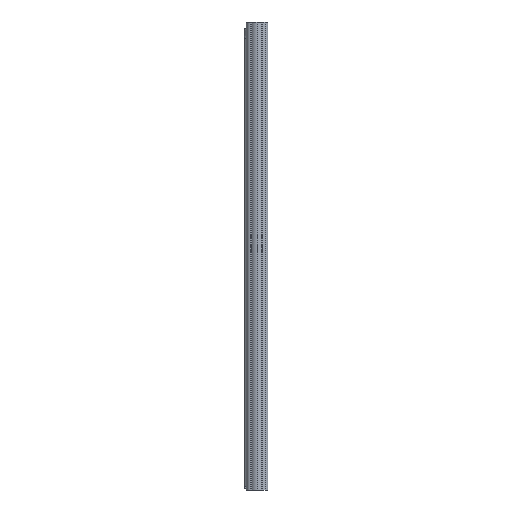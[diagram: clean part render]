
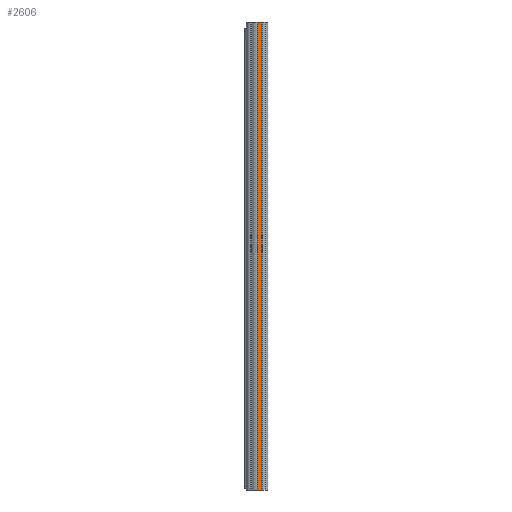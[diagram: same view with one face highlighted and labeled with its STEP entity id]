
A CAD part, left-side view. The second image highlights one B-rep face of the part: STEP entity #2606.
In plain terms, the highlighted cylindrical face has radius 3.78 mm (diameter 7.56 mm), a partial arc.
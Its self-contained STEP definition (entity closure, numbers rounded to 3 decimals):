
#61 = EDGE_LOOP ( 'NONE', ( #4005, #4168, #4310, #4298 ) ) ;
#196 = FACE_OUTER_BOUND ( 'NONE', #61, .T. ) ;
#202 = CYLINDRICAL_SURFACE ( 'NONE', #3713, 3.78 ) ;
#746 = CIRCLE ( 'NONE', #3917, 3.78 ) ;
#844 = LINE ( 'NONE', #4637, #851 ) ;
#850 = CIRCLE ( 'NONE', #3937, 3.78 ) ;
#851 = VECTOR ( 'NONE', #4621, 1000. ) ;
#872 = LINE ( 'NONE', #4752, #876 ) ;
#876 = VECTOR ( 'NONE', #4654, 1000. ) ;
#1098 = VERTEX_POINT ( 'NONE', #2996 ) ;
#1102 = VERTEX_POINT ( 'NONE', #2990 ) ;
#1534 = VERTEX_POINT ( 'NONE', #2892 ) ;
#1818 = CARTESIAN_POINT ( 'NONE',  ( -19.01, 0.53, 243.5 ) ) ;
#1821 = DIRECTION ( 'NONE',  ( 0., 0., -1. ) ) ;
#1827 = DIRECTION ( 'NONE',  ( -1., 0., 0. ) ) ;
#2415 = CARTESIAN_POINT ( 'NONE',  ( -21.795, -2.026, 243.5 ) ) ;
#2606 = ADVANCED_FACE ( 'NONE', ( #196 ), #202, .T. ) ;
#2732 = VERTEX_POINT ( 'NONE', #2415 ) ;
#2892 = CARTESIAN_POINT ( 'NONE',  ( -21.795, -2.026, -4.5 ) ) ;
#2990 = CARTESIAN_POINT ( 'NONE',  ( -22.79, 0.53, 243.5 ) ) ;
#2996 = CARTESIAN_POINT ( 'NONE',  ( -22.79, 0.53, -4.5 ) ) ;
#3098 = DIRECTION ( 'NONE',  ( 0., 0., 1. ) ) ;
#3206 = CARTESIAN_POINT ( 'NONE',  ( -19.01, 0.53, 243.5 ) ) ;
#3442 = DIRECTION ( 'NONE',  ( 1., 0., 0. ) ) ;
#3713 = AXIS2_PLACEMENT_3D ( 'NONE', #1818, #1821, #1827 ) ;
#3917 = AXIS2_PLACEMENT_3D ( 'NONE', #3206, #3098, #3442 ) ;
#3937 = AXIS2_PLACEMENT_3D ( 'NONE', #4648, #4440, #4603 ) ;
#4005 = ORIENTED_EDGE ( 'NONE', *, *, #4861, .F. ) ;
#4168 = ORIENTED_EDGE ( 'NONE', *, *, #4926, .T. ) ;
#4298 = ORIENTED_EDGE ( 'NONE', *, *, #4941, .F. ) ;
#4310 = ORIENTED_EDGE ( 'NONE', *, *, #4928, .T. ) ;
#4440 = DIRECTION ( 'NONE',  ( 0., 0., 1. ) ) ;
#4603 = DIRECTION ( 'NONE',  ( 1., 0., 0. ) ) ;
#4621 = DIRECTION ( 'NONE',  ( 0., 0., -1. ) ) ;
#4637 = CARTESIAN_POINT ( 'NONE',  ( -22.79, 0.53, 243.5 ) ) ;
#4648 = CARTESIAN_POINT ( 'NONE',  ( -19.01, 0.53, -4.5 ) ) ;
#4654 = DIRECTION ( 'NONE',  ( 0., 0., -1. ) ) ;
#4752 = CARTESIAN_POINT ( 'NONE',  ( -21.795, -2.026, 243.5 ) ) ;
#4861 = EDGE_CURVE ( 'NONE', #1102, #2732, #746, .T. ) ;
#4926 = EDGE_CURVE ( 'NONE', #1102, #1098, #844, .T. ) ;
#4928 = EDGE_CURVE ( 'NONE', #1098, #1534, #850, .T. ) ;
#4941 = EDGE_CURVE ( 'NONE', #2732, #1534, #872, .T. ) ;
